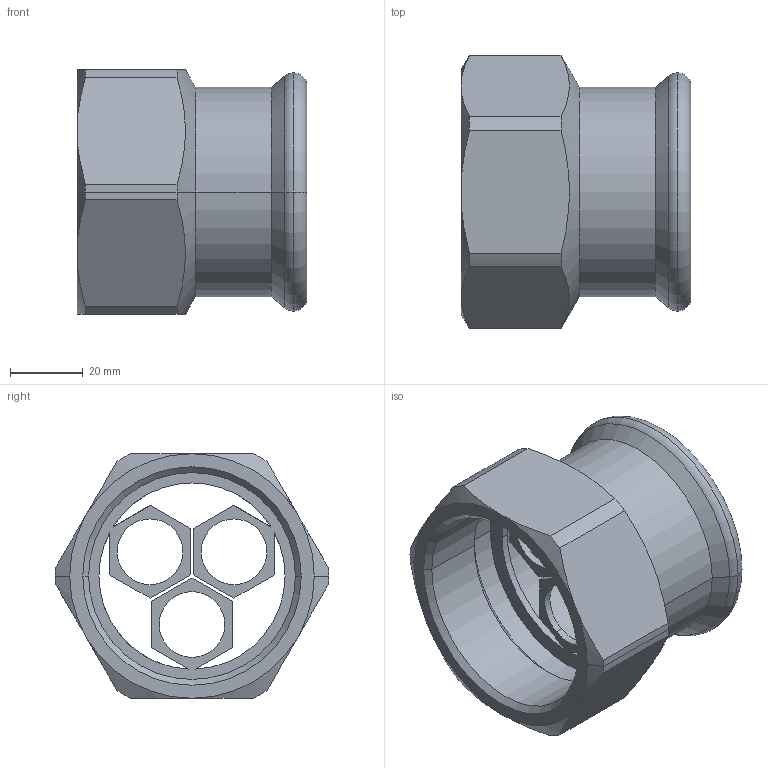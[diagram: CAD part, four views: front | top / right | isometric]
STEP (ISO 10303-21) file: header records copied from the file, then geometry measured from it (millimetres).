
FILE_DESCRIPTION(('OneSpaceDesigner STEP Export'),'2;1');
FILE_NAME('R2702 54xRp2.stp','2010-06-09T 8:55:55',(''),(''),'OneSpace Designer STEP processor for AP214 (Solid Model)','OneSpace Modeling 15.00A 14-Mar-2007 (C) CoCreate Software GmbH','');
FILE_SCHEMA(('AUTOMOTIVE_DESIGN { 1 0 10303 214 1 1 1 1 }'));
Length unit declared in the file: millimetre
Products named in the file (2): R2702_54xRp2
Assembly tree (1 placements, depth 2):
  R2702_54xRp2
    R2702_54xRp2
Bounding box: 63 x 75 x 67 mm (x, y, z)
Volume: 54292.1 mm3; surface area: 29715.6 mm2
Topology: 1 solids, 1 shells, 85 faces, 216 edges, 135 vertices
Faces by surface type: plane 34, cylinder 29, cone 18, torus 4
Entity records: 3119 total; most frequent: CARTESIAN_POINT 1319, ORIENTED_EDGE 432, DIRECTION 275, EDGE_CURVE 216, VERTEX_POINT 135, VECTOR 113, LINE 113, EDGE_LOOP 95
